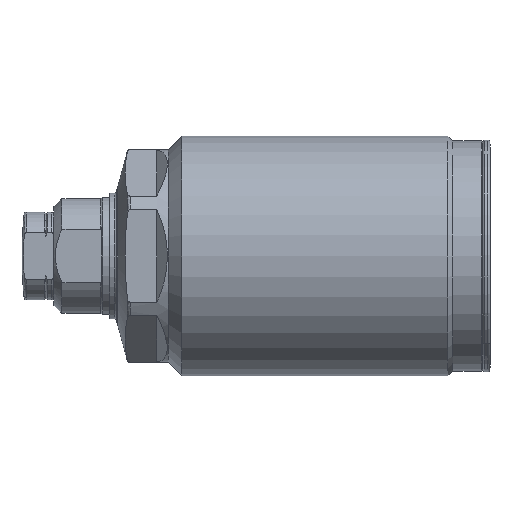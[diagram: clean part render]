
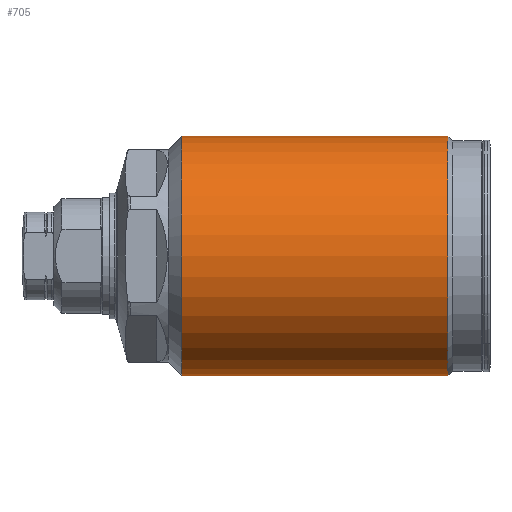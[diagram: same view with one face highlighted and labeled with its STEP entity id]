
A CAD part, left-side view. The second image highlights one B-rep face of the part: STEP entity #705.
In plain terms, the highlighted cylindrical face has radius 22.5 mm (diameter 45 mm), a partial arc.
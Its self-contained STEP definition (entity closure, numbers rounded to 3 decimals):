
#373=CYLINDRICAL_SURFACE('',#2902,22.5);
#438=LINE('',#4465,#533);
#439=LINE('',#4469,#534);
#533=VECTOR('',#3482,1.);
#534=VECTOR('',#3485,1.);
#705=ADVANCED_FACE('',(#893),#373,.T.);
#893=FACE_OUTER_BOUND('',#1066,.T.);
#1066=EDGE_LOOP('',(#1697,#1698,#1699,#1700));
#1697=ORIENTED_EDGE('',*,*,#2234,.T.);
#1698=ORIENTED_EDGE('',*,*,#2322,.T.);
#1699=ORIENTED_EDGE('',*,*,#2236,.F.);
#1700=ORIENTED_EDGE('',*,*,#2321,.F.);
#1936=VERTEX_POINT('',#4460);
#1937=VERTEX_POINT('',#4462);
#1938=VERTEX_POINT('',#4466);
#1939=VERTEX_POINT('',#4468);
#2234=EDGE_CURVE('',#1938,#1936,#438,.T.);
#2236=EDGE_CURVE('',#1939,#1937,#439,.T.);
#2321=EDGE_CURVE('',#1938,#1939,#2550,.T.);
#2322=EDGE_CURVE('',#1936,#1937,#2551,.T.);
#2550=CIRCLE('',#2899,22.5);
#2551=CIRCLE('',#2901,22.5);
#2899=AXIS2_PLACEMENT_3D('',#4807,#3700,#3701);
#2901=AXIS2_PLACEMENT_3D('',#4809,#3704,#3705);
#2902=AXIS2_PLACEMENT_3D('',#4810,#3706,#3707);
#3482=DIRECTION('',(0.,1.,0.));
#3485=DIRECTION('',(0.,1.,0.));
#3700=DIRECTION('',(0.,-1.,0.));
#3701=DIRECTION('',(0.,0.,-1.));
#3704=DIRECTION('',(0.,-1.,0.));
#3705=DIRECTION('',(0.,0.,-1.));
#3706=DIRECTION('',(0.,-1.,0.));
#3707=DIRECTION('',(0.,0.,1.));
#4460=CARTESIAN_POINT('',(0.,55.3,22.5));
#4462=CARTESIAN_POINT('',(0.,55.3,-22.5));
#4465=CARTESIAN_POINT('',(0.,-1.3,22.5));
#4466=CARTESIAN_POINT('',(0.,5.3,22.5));
#4468=CARTESIAN_POINT('',(0.,5.3,-22.5));
#4469=CARTESIAN_POINT('',(0.,-1.3,-22.5));
#4807=CARTESIAN_POINT('',(0.,5.3,0.));
#4809=CARTESIAN_POINT('',(0.,55.3,0.));
#4810=CARTESIAN_POINT('',(0.,-1.3,0.));
